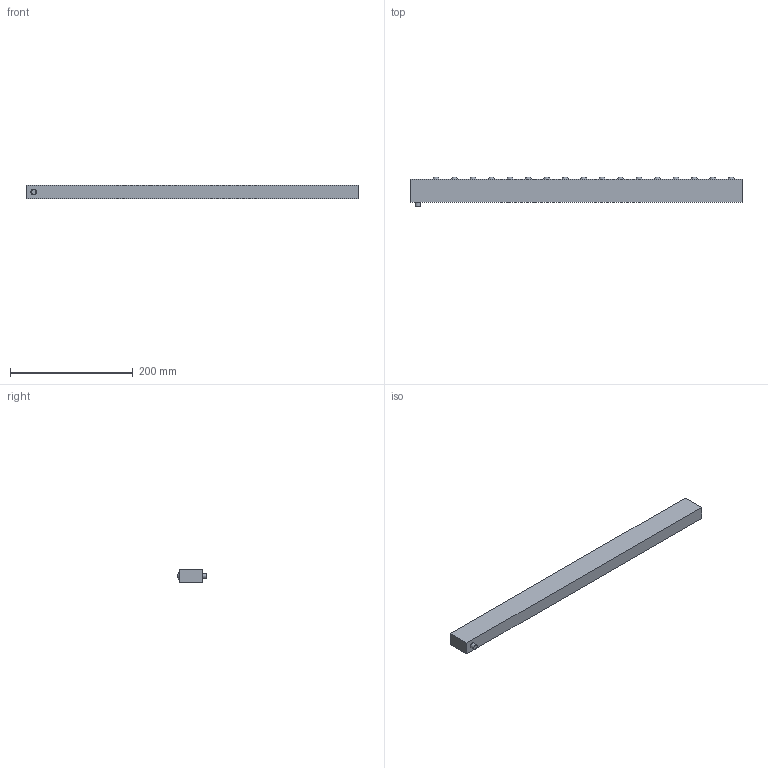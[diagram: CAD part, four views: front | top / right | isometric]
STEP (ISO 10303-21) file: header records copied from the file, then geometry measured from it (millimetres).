
FILE_DESCRIPTION(/* description */ (''),/* implementation_level */ '2;1');
FILE_NAME(/* name */ 'V:\Shrinkwrap\EMB\EMB - SHRINKWRAP\EMB22\EMB22-17_Shrinkwrap_1.stp',/* time_stamp */ '2022-08-12T10:50:18+02:00',/* author */ ('cw'),/* organization */ (''),/* preprocessor_version */ 'ST-DEVELOPER v17',/* originating_system */ 'Autodesk Inventor 2019',/* authorisation */ '');
FILE_SCHEMA (('AUTOMOTIVE_DESIGN { 1 0 10303 214 3 1 1 }'));
Length unit declared in the file: millimetre
Products named in the file (1): EMB22-17_Shrinkwrap_1
Bounding box: 540 x 48.46 x 21.8 mm (x, y, z)
Volume: 445551.9 mm3; surface area: 68961.6 mm2
Topology: 1 solids, 1 shells, 31 faces, 45 edges, 39 vertices
Faces by surface type: sphere 17, plane 10, cylinder 4
Full cylindrical faces by diameter (mm): 8 x1, 9 x1, 13 x1, 14 x1
Entity records: 805 total; most frequent: DIRECTION 134, CARTESIAN_POINT 114, ORIENTED_EDGE 86, AXIS2_PLACEMENT_3D 59, EDGE_LOOP 52, EDGE_CURVE 43, VERTEX_POINT 35, STYLED_ITEM 34
